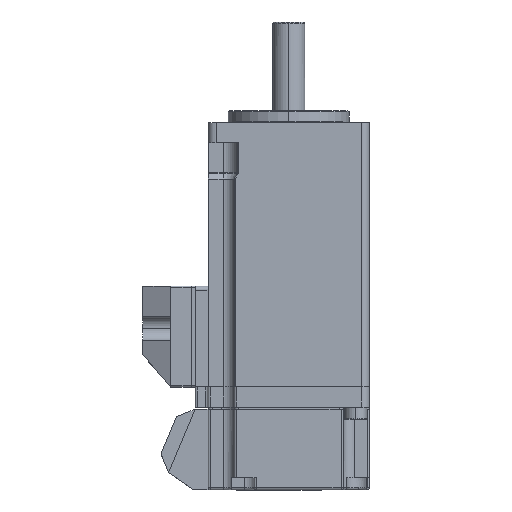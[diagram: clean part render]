
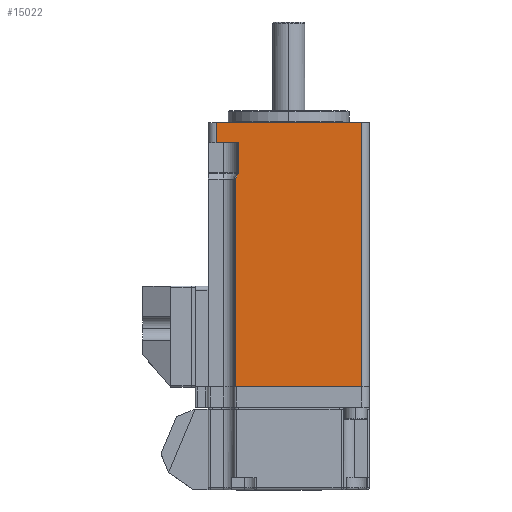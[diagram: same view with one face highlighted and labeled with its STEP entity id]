
A CAD part, top view. The second image highlights one B-rep face of the part: STEP entity #15022.
In plain terms, the highlighted planar face has unit normal (0, 0, 1).
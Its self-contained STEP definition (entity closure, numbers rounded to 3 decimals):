
#759 = VERTEX_POINT ( 'NONE', #6354 ) ;
#970 = VECTOR ( 'NONE', #11205, 1000. ) ;
#1583 = DIRECTION ( 'NONE',  ( 0., 0., -1. ) ) ;
#1587 = ORIENTED_EDGE ( 'NONE', *, *, #21870, .T. ) ;
#1817 = CARTESIAN_POINT ( 'NONE',  ( -12.863, -58.94, 20. ) ) ;
#2186 = LINE ( 'NONE', #6914, #20357 ) ;
#2368 = LINE ( 'NONE', #7207, #10784 ) ;
#2661 = EDGE_CURVE ( 'NONE', #6148, #7234, #14587, .T. ) ;
#3141 = ORIENTED_EDGE ( 'NONE', *, *, #15889, .T. ) ;
#3392 = CARTESIAN_POINT ( 'NONE',  ( -12.463, -58.94, 20. ) ) ;
#3438 = AXIS2_PLACEMENT_3D ( 'NONE', #1817, #1583, #15898 ) ;
#3473 = ORIENTED_EDGE ( 'NONE', *, *, #13821, .T. ) ;
#3718 = CARTESIAN_POINT ( 'NONE',  ( -7.155, -49.565, 20. ) ) ;
#4482 = DIRECTION ( 'NONE',  ( 0., -1., 0. ) ) ;
#5518 = PLANE ( 'NONE',  #17133 ) ;
#5587 = ORIENTED_EDGE ( 'NONE', *, *, #12755, .T. ) ;
#5661 = CARTESIAN_POINT ( 'NONE',  ( -18., -43.492, 20. ) ) ;
#5996 = EDGE_CURVE ( 'NONE', #759, #15725, #2368, .T. ) ;
#6133 = CARTESIAN_POINT ( 'NONE',  ( -12.463, -58.94, 20. ) ) ;
#6148 = VERTEX_POINT ( 'NONE', #17030 ) ;
#6354 = CARTESIAN_POINT ( 'NONE',  ( 18., -46.492, 20. ) ) ;
#6556 = ORIENTED_EDGE ( 'NONE', *, *, #17040, .T. ) ;
#6914 = CARTESIAN_POINT ( 'NONE',  ( -13.3, -43.492, 20. ) ) ;
#7207 = CARTESIAN_POINT ( 'NONE',  ( 18., -43.492, 20. ) ) ;
#7234 = VERTEX_POINT ( 'NONE', #9290 ) ;
#7413 = FACE_OUTER_BOUND ( 'NONE', #8433, .T. ) ;
#7868 = VERTEX_POINT ( 'NONE', #21374 ) ;
#8101 = EDGE_CURVE ( 'NONE', #7234, #8709, #16928, .T. ) ;
#8433 = EDGE_LOOP ( 'NONE', ( #14487, #15509, #6556, #3473, #5587, #3141, #12782, #1587, #11302 ) ) ;
#8709 = VERTEX_POINT ( 'NONE', #18768 ) ;
#8710 = CARTESIAN_POINT ( 'NONE',  ( -13.3, -60.538, 20. ) ) ;
#9290 = CARTESIAN_POINT ( 'NONE',  ( -18., -51.492, 20. ) ) ;
#10254 = DIRECTION ( 'NONE',  ( -1., 0., 0. ) ) ;
#10528 = DIRECTION ( 'NONE',  ( 0., -1., 0. ) ) ;
#10784 = VECTOR ( 'NONE', #14325, 1000. ) ;
#11037 = CARTESIAN_POINT ( 'NONE',  ( 18., -111.992, 20. ) ) ;
#11061 = VECTOR ( 'NONE', #10254, 1000. ) ;
#11063 = DIRECTION ( 'NONE',  ( -1., 0., 0. ) ) ;
#11205 = DIRECTION ( 'NONE',  ( 1., 0., 0. ) ) ;
#11302 = ORIENTED_EDGE ( 'NONE', *, *, #2661, .T. ) ;
#11499 = CARTESIAN_POINT ( 'NONE',  ( -12.514, -59.136, 20. ) ) ;
#12263 = VERTEX_POINT ( 'NONE', #3392 ) ;
#12755 = EDGE_CURVE ( 'NONE', #21418, #7868, #2186, .T. ) ;
#12782 = ORIENTED_EDGE ( 'NONE', *, *, #5996, .F. ) ;
#12881 = VERTEX_POINT ( 'NONE', #11499 ) ;
#12908 = VECTOR ( 'NONE', #4482, 1000. ) ;
#13528 = CARTESIAN_POINT ( 'NONE',  ( -18., -46.492, 20. ) ) ;
#13693 = DIRECTION ( 'NONE',  ( 1., 0., 0. ) ) ;
#13821 = EDGE_CURVE ( 'NONE', #12881, #21418, #20061, .T. ) ;
#14325 = DIRECTION ( 'NONE',  ( 0., -1., 0. ) ) ;
#14487 = ORIENTED_EDGE ( 'NONE', *, *, #8101, .T. ) ;
#14587 = LINE ( 'NONE', #17117, #17088 ) ;
#14590 = DIRECTION ( 'NONE',  ( -0.489, -0.873, 0. ) ) ;
#15022 = ADVANCED_FACE ( 'NONE', ( #7413 ), #5518, .F. ) ;
#15202 = DIRECTION ( 'NONE',  ( 0., -1., 0. ) ) ;
#15494 = LINE ( 'NONE', #22461, #21357 ) ;
#15509 = ORIENTED_EDGE ( 'NONE', *, *, #16770, .T. ) ;
#15725 = VERTEX_POINT ( 'NONE', #11037 ) ;
#15889 = EDGE_CURVE ( 'NONE', #7868, #15725, #15494, .T. ) ;
#15898 = DIRECTION ( 'NONE',  ( -1., 0., 0. ) ) ;
#16770 = EDGE_CURVE ( 'NONE', #8709, #12263, #22090, .T. ) ;
#16928 = LINE ( 'NONE', #18476, #970 ) ;
#17030 = CARTESIAN_POINT ( 'NONE',  ( -18., -46.492, 20. ) ) ;
#17040 = EDGE_CURVE ( 'NONE', #12263, #12881, #17972, .T. ) ;
#17088 = VECTOR ( 'NONE', #15202, 1000. ) ;
#17117 = CARTESIAN_POINT ( 'NONE',  ( -18., -43.492, 20. ) ) ;
#17133 = AXIS2_PLACEMENT_3D ( 'NONE', #5661, #18180, #11063 ) ;
#17972 = CIRCLE ( 'NONE', #3438, 0.4 ) ;
#18180 = DIRECTION ( 'NONE',  ( 0., 0., -1. ) ) ;
#18476 = CARTESIAN_POINT ( 'NONE',  ( -18., -51.492, 20. ) ) ;
#18768 = CARTESIAN_POINT ( 'NONE',  ( -12.463, -51.492, 20. ) ) ;
#19525 = VECTOR ( 'NONE', #14590, 1000. ) ;
#20061 = LINE ( 'NONE', #3718, #19525 ) ;
#20357 = VECTOR ( 'NONE', #10528, 1000. ) ;
#21357 = VECTOR ( 'NONE', #13693, 1000. ) ;
#21374 = CARTESIAN_POINT ( 'NONE',  ( -13.3, -111.992, 20. ) ) ;
#21418 = VERTEX_POINT ( 'NONE', #8710 ) ;
#21660 = LINE ( 'NONE', #13528, #11061 ) ;
#21870 = EDGE_CURVE ( 'NONE', #759, #6148, #21660, .T. ) ;
#22090 = LINE ( 'NONE', #6133, #12908 ) ;
#22461 = CARTESIAN_POINT ( 'NONE',  ( -18., -111.992, 20. ) ) ;
